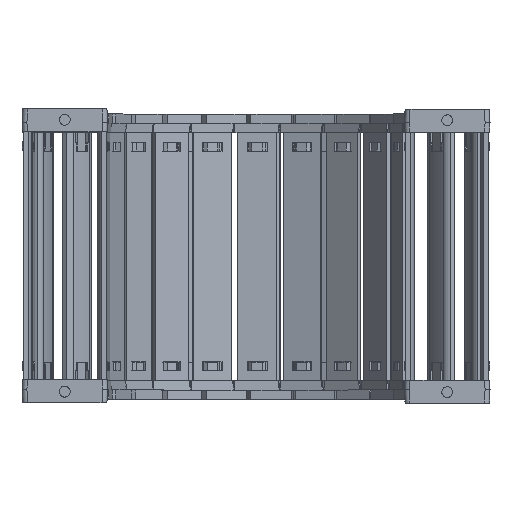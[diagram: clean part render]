
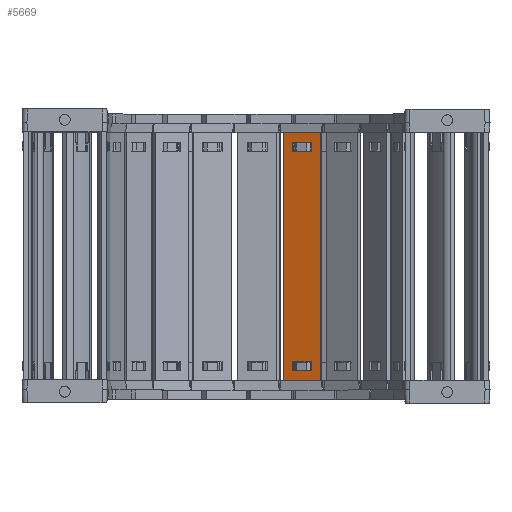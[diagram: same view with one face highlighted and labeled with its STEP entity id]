
A CAD part, top view. The second image highlights one B-rep face of the part: STEP entity #5669.
In plain terms, the highlighted planar face has unit normal (-0.342, 0, 0.94) as drawn and (0, 1, 0) by its records, which use the part's own axes.
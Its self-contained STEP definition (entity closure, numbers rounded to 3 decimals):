
#5089=DIRECTION('',(0.,0.,1.));
#5090=VECTOR('',#5089,15.8);
#5091=CARTESIAN_POINT('',(85.74,1.5,-7.9));
#5092=LINE('',#5091,#5090);
#5093=DIRECTION('',(-1.,0.,0.));
#5094=VECTOR('',#5093,100.5);
#5095=CARTESIAN_POINT('',(85.74,1.5,7.9));
#5096=LINE('',#5095,#5094);
#5097=DIRECTION('',(0.,0.,-1.));
#5098=VECTOR('',#5097,15.8);
#5099=CARTESIAN_POINT('',(-14.76,1.5,7.9));
#5100=LINE('',#5099,#5098);
#5101=DIRECTION('',(1.,0.,0.));
#5102=VECTOR('',#5101,3.648);
#5103=CARTESIAN_POINT('',(78.122,1.5,4.075));
#5104=LINE('',#5103,#5102);
#5105=DIRECTION('',(0.,0.,-1.));
#5106=VECTOR('',#5105,8.15);
#5107=CARTESIAN_POINT('',(81.77,1.5,4.075));
#5108=LINE('',#5107,#5106);
#5109=DIRECTION('',(-1.,0.,0.));
#5110=VECTOR('',#5109,3.648);
#5111=CARTESIAN_POINT('',(81.77,1.5,-4.075));
#5112=LINE('',#5111,#5110);
#5113=DIRECTION('',(0.,0.,-1.));
#5114=VECTOR('',#5113,8.15);
#5115=CARTESIAN_POINT('',(-7.142,1.5,4.075));
#5116=LINE('',#5115,#5114);
#5117=DIRECTION('',(-1.,0.,0.));
#5118=VECTOR('',#5117,3.648);
#5119=CARTESIAN_POINT('',(-7.142,1.5,-4.075));
#5120=LINE('',#5119,#5118);
#5121=DIRECTION('',(0.,0.,1.));
#5122=VECTOR('',#5121,8.15);
#5123=CARTESIAN_POINT('',(-10.79,1.5,-4.075));
#5124=LINE('',#5123,#5122);
#5125=DIRECTION('',(1.,0.,0.));
#5126=VECTOR('',#5125,3.648);
#5127=CARTESIAN_POINT('',(-10.79,1.5,4.075));
#5128=LINE('',#5127,#5126);
#5133=DIRECTION('',(-1.,0.,0.));
#5134=VECTOR('',#5133,100.5);
#5135=CARTESIAN_POINT('',(85.74,1.5,-7.9));
#5136=LINE('',#5135,#5134);
#5254=DIRECTION('',(0.,0.,-1.));
#5255=VECTOR('',#5254,8.15);
#5256=CARTESIAN_POINT('',(78.122,1.5,4.075));
#5257=LINE('',#5256,#5255);
#5439=CARTESIAN_POINT('',(81.77,1.5,4.075));
#5440=VERTEX_POINT('',#5439);
#5441=CARTESIAN_POINT('',(78.122,1.5,4.075));
#5442=VERTEX_POINT('',#5441);
#5483=CARTESIAN_POINT('',(78.122,1.5,-4.075));
#5484=VERTEX_POINT('',#5483);
#5485=CARTESIAN_POINT('',(81.77,1.5,-4.075));
#5486=VERTEX_POINT('',#5485);
#5487=CARTESIAN_POINT('',(85.74,1.5,7.9));
#5489=VERTEX_POINT('',#5487);
#5491=CARTESIAN_POINT('',(85.74,1.5,-7.9));
#5492=VERTEX_POINT('',#5491);
#5515=CARTESIAN_POINT('',(-7.142,1.5,4.075));
#5516=CARTESIAN_POINT('',(-7.142,1.5,-4.075));
#5517=VERTEX_POINT('',#5515);
#5518=VERTEX_POINT('',#5516);
#5519=CARTESIAN_POINT('',(-10.79,1.5,-4.075));
#5520=VERTEX_POINT('',#5519);
#5521=CARTESIAN_POINT('',(-10.79,1.5,4.075));
#5522=VERTEX_POINT('',#5521);
#5523=CARTESIAN_POINT('',(-14.76,1.5,7.9));
#5524=VERTEX_POINT('',#5523);
#5527=CARTESIAN_POINT('',(-14.76,1.5,-7.9));
#5528=VERTEX_POINT('',#5527);
#5638=CARTESIAN_POINT('',(117.48,1.5,10.061));
#5639=DIRECTION('',(0.,-1.,0.));
#5640=DIRECTION('',(0.,0.,-1.));
#5641=AXIS2_PLACEMENT_3D('',#5638,#5639,#5640);
#5642=PLANE('',#5641);
#5643=ORIENTED_EDGE('',*,*,#5577,.T.);
#5644=ORIENTED_EDGE('',*,*,#5603,.T.);
#5645=ORIENTED_EDGE('',*,*,#5616,.T.);
#5647=ORIENTED_EDGE('',*,*,#5646,.F.);
#5648=EDGE_LOOP('',(#5643,#5644,#5645,#5647));
#5649=FACE_OUTER_BOUND('',#5648,.F.);
#5651=ORIENTED_EDGE('',*,*,#5650,.F.);
#5652=ORIENTED_EDGE('',*,*,#5540,.T.);
#5654=ORIENTED_EDGE('',*,*,#5653,.T.);
#5656=ORIENTED_EDGE('',*,*,#5655,.T.);
#5657=EDGE_LOOP('',(#5651,#5652,#5654,#5656));
#5658=FACE_BOUND('',#5657,.F.);
#5660=ORIENTED_EDGE('',*,*,#5659,.T.);
#5662=ORIENTED_EDGE('',*,*,#5661,.T.);
#5664=ORIENTED_EDGE('',*,*,#5663,.T.);
#5666=ORIENTED_EDGE('',*,*,#5665,.T.);
#5667=EDGE_LOOP('',(#5660,#5662,#5664,#5666));
#5668=FACE_BOUND('',#5667,.F.);
#5669=ADVANCED_FACE('',(#5649,#5658,#5668),#5642,.F.);
#5540=EDGE_CURVE('',#5442,#5440,#5104,.T.);
#5577=EDGE_CURVE('',#5492,#5489,#5092,.T.);
#5603=EDGE_CURVE('',#5489,#5524,#5096,.T.);
#5616=EDGE_CURVE('',#5524,#5528,#5100,.T.);
#5646=EDGE_CURVE('',#5492,#5528,#5136,.T.);
#5650=EDGE_CURVE('',#5442,#5484,#5257,.T.);
#5653=EDGE_CURVE('',#5440,#5486,#5108,.T.);
#5655=EDGE_CURVE('',#5486,#5484,#5112,.T.);
#5659=EDGE_CURVE('',#5517,#5518,#5116,.T.);
#5661=EDGE_CURVE('',#5518,#5520,#5120,.T.);
#5663=EDGE_CURVE('',#5520,#5522,#5124,.T.);
#5665=EDGE_CURVE('',#5522,#5517,#5128,.T.);
